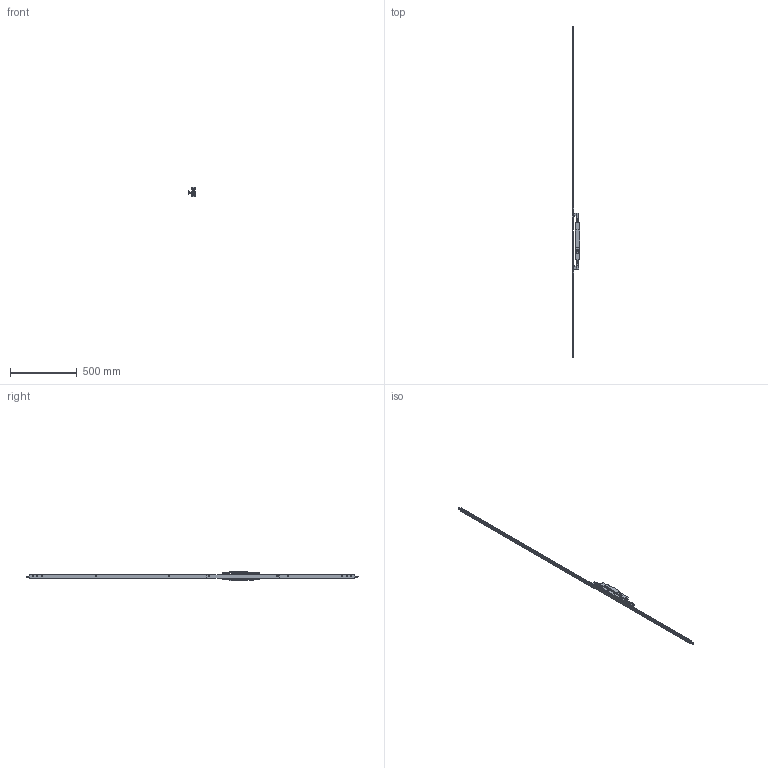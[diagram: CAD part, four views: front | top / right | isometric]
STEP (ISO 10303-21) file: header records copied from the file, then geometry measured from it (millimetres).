
FILE_DESCRIPTION (( 'STEP AP203' ), '1' );
FILE_NAME ('TPL-W-030.STEP', '2024-07-05T01:52:29', ( '' ), ( '' ), 'SwSTEP 2.0', 'SolidWorks 2023', '' );
FILE_SCHEMA (( 'CONFIG_CONTROL_DESIGN' ));
Length unit declared in the file: millimetre
Products named in the file (21): Copy of TPGen2 handle keyed external - simplified^TPL-W-007_Vertical; Copy of LKC-547 Spindle - simplified^Copy of TPGen2 handle keyed external - simplified_TPL-W-007_E - 19mm; Copy of COV-112-C Cover C TPLGen2 Lock body^TPL-W-007; Copy of TPGen2 handle keyed internal - simplified^TPL-W-007_Vertical; Bolt^TPL-W-007; TPL-W-030; Copy of LKC-531 Lock twinpoint transmission rod wood system^TPL-W-007_Standard Range 2891.7mm; LKC-531 Lock twinpoint transmission rod wood system^TPL-W-007_Standard Range 2891.7mm; Copy of TPLGen2 push rod - simplified^Copy of TPLGen2 lock body keyed assembly_TPL-W-007_Female thread M10; Copy of Handle sub-assembly - simplified^Copy of TPGen2 handle keyed internal - simplified_TPL-W-007; Copy of Handle sub-assembly - simplified^Copy of TPGen2 handle keyed external - simplified_TPL-W-007; Copy of TPLGen2 lock body keyed^Copy of TPLGen2 lock body keyed assembly_TPL-W-007; Copy of TPL-019 Lock cylinder suit 1.75 inch panel^TPL-W-007; Copy of LKC-547 Spindle - simplified^Copy of TPGen2 handle keyed internal - simplified_TPL-W-007_A - 11mm; Adapter E - simplfied^TPL-W-007; COV-112-B Cover B suit TPLGen2 standard range^TPL-W-007_2870mm; Adapter F - simplfied^TPL-W-007; Copy of Escutcheon plate keyed internal 280mm - simplified^Copy of TPGen2 handle keyed internal - simplified_TPL-W-007; Copy of COV-112-A Cover A suit TPLGen2 standard range^TPL-W-007_2870mm; Copy of TPLGen2 lock body keyed assembly^TPL-W-007_Bolts extended; Copy of Escutcheon plate keyed external 280mm - simplified^Copy of TPGen2 handle keyed external - simplified_TPL-W-007
Assembly tree (22 placements, depth 3):
  TPL-W-030
    Copy of TPLGen2 lock body keyed assembly^TPL-W-007_Bolts extended
      Copy of TPLGen2 lock body keyed^Copy of TPLGen2 lock body keyed assembly_TPL-W-007
      Copy of TPLGen2 push rod - simplified^Copy of TPLGen2 lock body keyed assembly_TPL-W-007_Female thread M10  x2
    Copy of TPGen2 handle keyed internal - simplified^TPL-W-007_Vertical
      Copy of Escutcheon plate keyed internal 280mm - simplified^Copy of TPGen2 handle keyed internal - simplified_TPL-W-007
      Copy of Handle sub-assembly - simplified^Copy of TPGen2 handle keyed internal - simplified_TPL-W-007
      Copy of LKC-547 Spindle - simplified^Copy of TPGen2 handle keyed internal - simplified_TPL-W-007_A - 11mm
    Copy of TPGen2 handle keyed external - simplified^TPL-W-007_Vertical
      Copy of Escutcheon plate keyed external 280mm - simplified^Copy of TPGen2 handle keyed external - simplified_TPL-W-007
      Copy of Handle sub-assembly - simplified^Copy of TPGen2 handle keyed external - simplified_TPL-W-007
      Copy of LKC-547 Spindle - simplified^Copy of TPGen2 handle keyed external - simplified_TPL-W-007_E - 19mm
    Copy of TPL-019 Lock cylinder suit 1.75 inch panel^TPL-W-007
    Copy of COV-112-C Cover C TPLGen2 Lock body^TPL-W-007
    Bolt^TPL-W-007  x2
    LKC-531 Lock twinpoint transmission rod wood system^TPL-W-007_Standard Range 2891.7mm
    Copy of LKC-531 Lock twinpoint transmission rod wood system^TPL-W-007_Standard Range 2891.7mm
    Copy of COV-112-A Cover A suit TPLGen2 standard range^TPL-W-007_2870mm
    COV-112-B Cover B suit TPLGen2 standard range^TPL-W-007_2870mm
    Adapter F - simplfied^TPL-W-007
    Adapter E - simplfied^TPL-W-007
Bounding box: 56 x 2490 x 73.59 mm (x, y, z)
Volume: 673648.3 mm3; surface area: 434895.5 mm2
Topology: 21 solids, 24 shells, 1275 faces, 3324 edges, 2096 vertices
Faces by surface type: cylinder 516, plane 509, bspline 89, torus 68, cone 65, sphere 28
Entity records: 41034 total; most frequent: CARTESIAN_POINT 8848, DIRECTION 6361, ORIENTED_EDGE 6234, EDGE_CURVE 3117, AXIS2_PLACEMENT_3D 2365, VERTEX_POINT 1984, LINE 1631, VECTOR 1631
